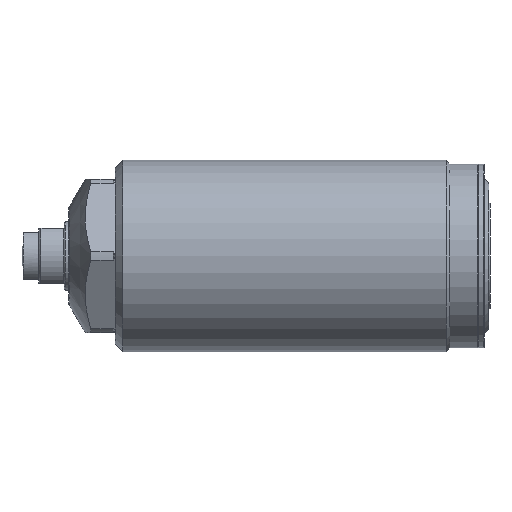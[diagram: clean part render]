
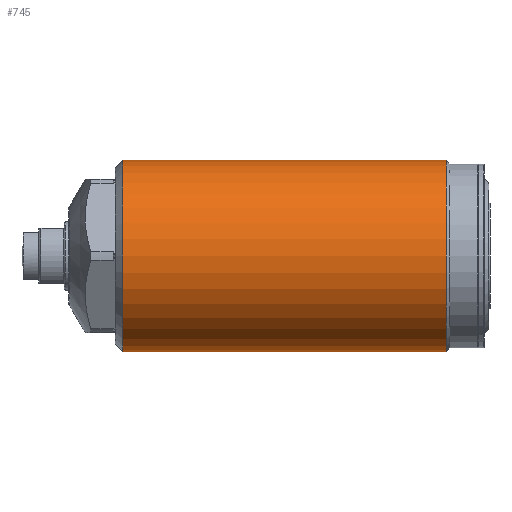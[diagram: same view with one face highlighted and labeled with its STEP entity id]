
A CAD part, left-side view. The second image highlights one B-rep face of the part: STEP entity #745.
In plain terms, the highlighted cylindrical face has radius 22.5 mm (diameter 45 mm), a partial arc.
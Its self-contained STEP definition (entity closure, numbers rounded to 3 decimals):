
#532=CYLINDRICAL_SURFACE('',#2045,22.5);
#585=LINE('',#2804,#659);
#586=LINE('',#2805,#660);
#659=VECTOR('',#2278,1.);
#660=VECTOR('',#2279,1.);
#745=ADVANCED_FACE('',(#859),#532,.T.);
#859=FACE_OUTER_BOUND('',#952,.T.);
#952=EDGE_LOOP('',(#1161,#1162,#1163,#1164));
#1161=ORIENTED_EDGE('',*,*,#1659,.T.);
#1162=ORIENTED_EDGE('',*,*,#1722,.T.);
#1163=ORIENTED_EDGE('',*,*,#1660,.F.);
#1164=ORIENTED_EDGE('',*,*,#1723,.T.);
#1511=VERTEX_POINT('',#2784);
#1512=VERTEX_POINT('',#2786);
#1517=VERTEX_POINT('',#2802);
#1518=VERTEX_POINT('',#2803);
#1659=EDGE_CURVE('',#1512,#1518,#585,.T.);
#1660=EDGE_CURVE('',#1511,#1517,#586,.T.);
#1722=EDGE_CURVE('',#1518,#1517,#1897,.T.);
#1723=EDGE_CURVE('',#1511,#1512,#1898,.T.);
#1897=CIRCLE('',#2042,22.5);
#1898=CIRCLE('',#2044,22.5);
#2042=AXIS2_PLACEMENT_3D('',#2987,#2368,#2369);
#2044=AXIS2_PLACEMENT_3D('',#2989,#2372,#2373);
#2045=AXIS2_PLACEMENT_3D('',#2990,#2374,#2375);
#2278=DIRECTION('',(0.,1.,0.));
#2279=DIRECTION('',(0.,1.,0.));
#2368=DIRECTION('',(0.,-1.,0.));
#2369=DIRECTION('',(0.,0.,1.));
#2372=DIRECTION('',(0.,1.,0.));
#2373=DIRECTION('',(0.,0.,-1.));
#2374=DIRECTION('',(0.,-1.,0.));
#2375=DIRECTION('',(0.,0.,1.));
#2784=CARTESIAN_POINT('',(0.,7.5,-22.5));
#2786=CARTESIAN_POINT('',(0.,7.5,22.5));
#2802=CARTESIAN_POINT('',(0.,83.45,-22.5));
#2803=CARTESIAN_POINT('',(0.,83.45,22.5));
#2804=CARTESIAN_POINT('',(0.,96.2,22.5));
#2805=CARTESIAN_POINT('',(0.,96.2,-22.5));
#2987=CARTESIAN_POINT('',(0.,83.45,0.));
#2989=CARTESIAN_POINT('',(0.,7.5,0.));
#2990=CARTESIAN_POINT('',(0.,96.2,0.));
